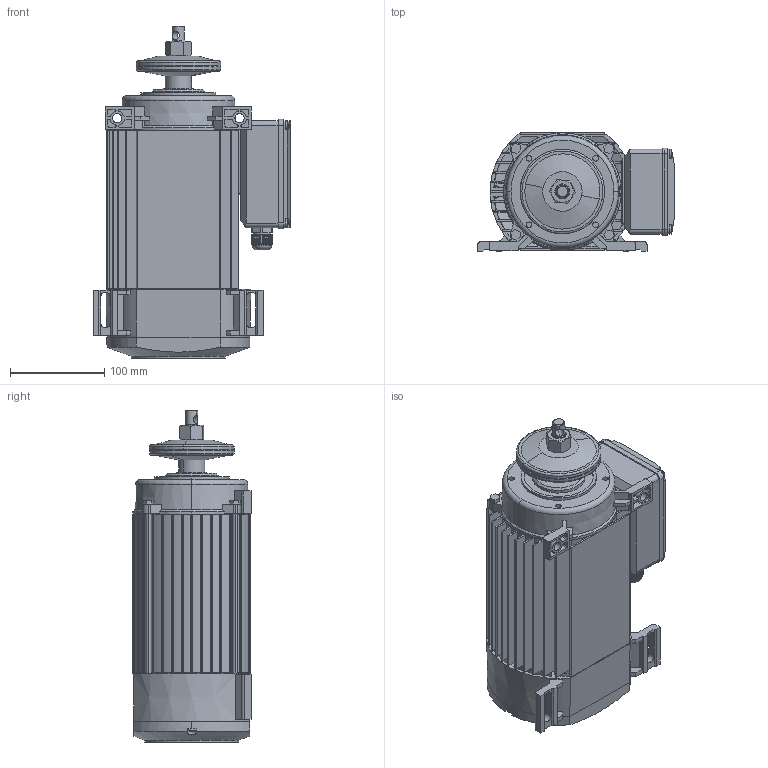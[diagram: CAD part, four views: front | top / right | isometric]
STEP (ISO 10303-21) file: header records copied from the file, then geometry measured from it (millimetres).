
FILE_DESCRIPTION (( 'STEP AP203' ), '1' );
FILE_NAME ('KSE_63B2.STEP', '2022-12-08T15:04:19', ( '' ), ( '' ), 'SwSTEP 2.0', 'SolidWorks 2021', '' );
FILE_SCHEMA (( 'CONFIG_CONTROL_DESIGN' ));
Length unit declared in the file: millimetre
Products named in the file (19): ___________.STEP; 63_________-5.STEP; MYC6322.STEP; _________-6.STEP; _________-2.STEP; my_____________-8.STEP; 63_________-1.STEP; _________-0.STEP; _________.STEP; my_____________.STEP; MSC6322_________.STEP; KSE_63B2; MS63-71 _____________.STEP; _________-7.STEP; 63_________.STEP; ___________-4.STEP; Hexagon nuts grade C GB_GB_FASTENER_NUT_SNC1 M16-N.STEP; _________-3.STEP; Cross recessed thread forming screws GB_GB_CROSS_SCREWS_TYPE138 M4X8-N.STEP
Assembly tree (26 placements, depth 3):
  KSE_63B2
    MYC6322.STEP
      _________.STEP
      63_________.STEP
      _________-0.STEP
      Cross recessed thread forming screws GB_GB_CROSS_SCREWS_TYPE138 M4X8-N.STEP  x6
      63_________-1.STEP  x4
      MSC6322_________.STEP
      _________-2.STEP
      ___________.STEP
      _________-3.STEP
      Hexagon nuts grade C GB_GB_FASTENER_NUT_SNC1 M16-N.STEP
      ___________-4.STEP
      my_____________.STEP
      63_________-5.STEP
      _________-6.STEP
      _________-7.STEP
      MS63-71 _____________.STEP
      my_____________-8.STEP
Bounding box: 209 x 125.5 x 353 mm (x, y, z)
Volume: 1067101.8 mm3; surface area: 699407.9 mm2
Topology: 25 solids, 25 shells, 2156 faces, 5953 edges, 3882 vertices
Faces by surface type: plane 1268, cylinder 622, cone 153, torus 101, sphere 12
Entity records: 72026 total; most frequent: CARTESIAN_POINT 18253, ORIENTED_EDGE 11082, DIRECTION 10369, EDGE_CURVE 5541, VERTEX_POINT 3614, AXIS2_PLACEMENT_3D 3508, VECTOR 3353, LINE 3353
